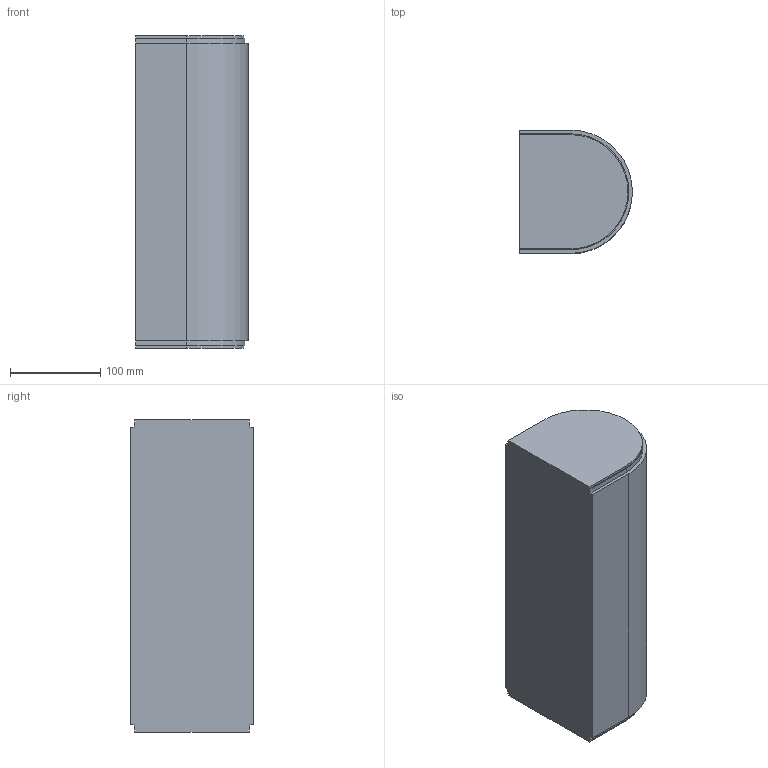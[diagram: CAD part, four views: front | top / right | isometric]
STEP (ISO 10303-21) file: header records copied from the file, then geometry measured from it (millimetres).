
FILE_DESCRIPTION (( 'STEP AP214' ), '1' );
FILE_NAME ('FS-MTC2-150-INOX Aandrijving & omloop.350 omloop.STEP', '2017-02-08T12:38:32', ( '' ), ( '' ), 'SwSTEP 2.0', 'SolidWorks 2016', '' );
FILE_SCHEMA (( 'AUTOMOTIVE_DESIGN' ));
Length unit declared in the file: millimetre
Products named in the file (1): FS-MTC2-150-INOX Aandrijving & omloop.350 omloop
Bounding box: 125 x 136.5 x 346 mm (x, y, z)
Volume: 5189986 mm3; surface area: 190463 mm2
Topology: 1 solids, 1 shells, 22 faces, 60 edges, 40 vertices
Faces by surface type: plane 17, cylinder 5
Entity records: 728 total; most frequent: CARTESIAN_POINT 123, ORIENTED_EDGE 120, DIRECTION 116, EDGE_CURVE 60, VECTOR 50, LINE 50, VERTEX_POINT 40, AXIS2_PLACEMENT_3D 33
